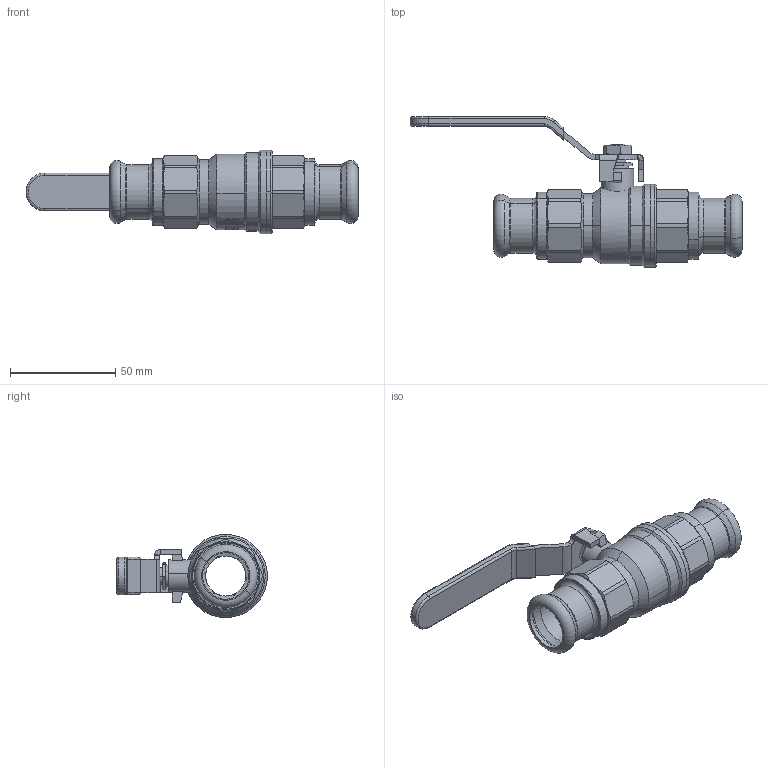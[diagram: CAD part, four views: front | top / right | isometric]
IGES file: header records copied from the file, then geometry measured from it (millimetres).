
Global section: file name: No Iges File Name specified; native system: AutoDesk Inventor R12.0; preprocessor: AutoDesk Inventor Iges Exporter R12.0; date: 20120118.100052; units: millimetre
Bounding box: 157.6 x 71.55 x 39.5 mm (x, y, z)
Volume: 60486.1 mm3; surface area: 38874.9 mm2
Topology: 1 solids, 12 shells, 723 faces, 2287 edges, 1676 vertices
Faces by surface type: plane 290, revolution 110, bspline 101, cylinder 97, cone 79, torus 42, sphere 4
